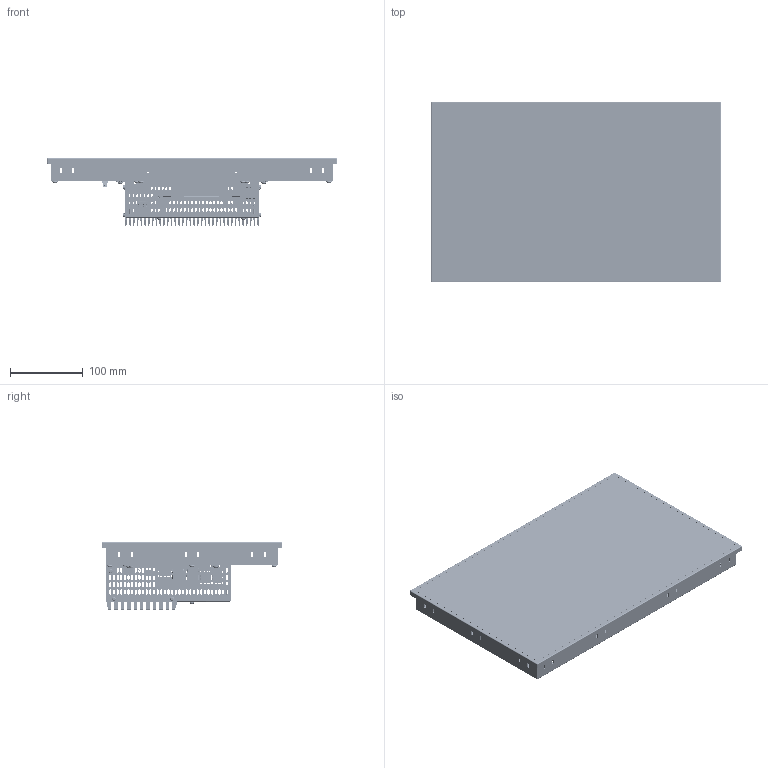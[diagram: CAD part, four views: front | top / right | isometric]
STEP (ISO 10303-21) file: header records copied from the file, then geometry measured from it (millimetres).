
FILE_DESCRIPTION (( 'STEP AP214' ), '1' );
FILE_NAME ('ETT1544 (01-230-1544) 20200807.STEP', '2020-08-07T11:34:02', ( 'Windows-Benutzer' ), ( '' ), 'SwSTEP 2.0', 'SolidWorks 2018', '' );
FILE_SCHEMA (( 'AUTOMOTIVE_DESIGN' ));
Length unit declared in the file: millimetre
Products named in the file (1): ETT1544 (01-230-1544) 20200807
Bounding box: 398.5 x 248 x 93 mm (x, y, z)
Surface area: 878704.9 mm2 (no closed solid volume)
Topology: 0 solids, 121 shells, 14797 faces, 41029 edges, 26879 vertices
Faces by surface type: plane 8736, cylinder 5246, cone 461, bspline 220, torus 102, sphere 32
Full cylindrical faces by diameter (mm): 0.2 x1
Entity records: 652795 total; most frequent: CARTESIAN_POINT 106302, ORIENTED_EDGE 81664, DIRECTION 76590, EDGE_CURVE 40991, VECTOR 27658, LINE 27658, VERTEX_POINT 26901, AXIS2_PLACEMENT_3D 24466
